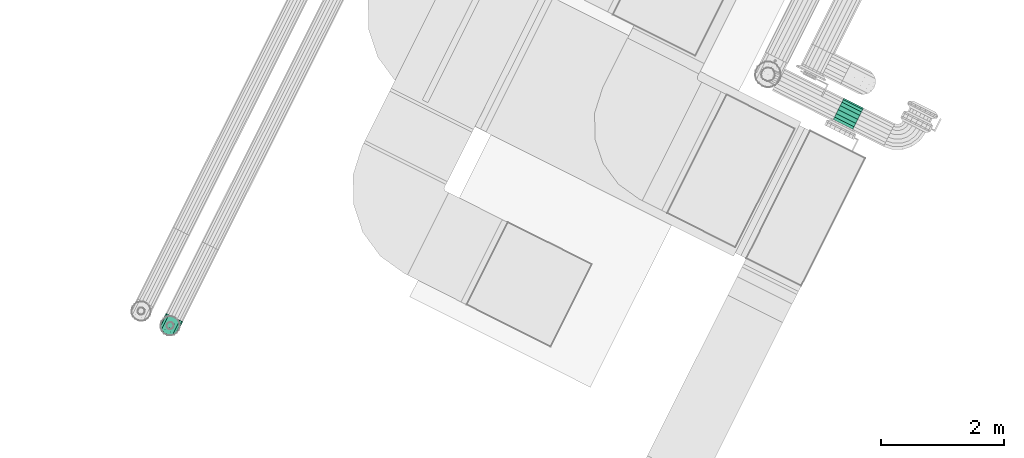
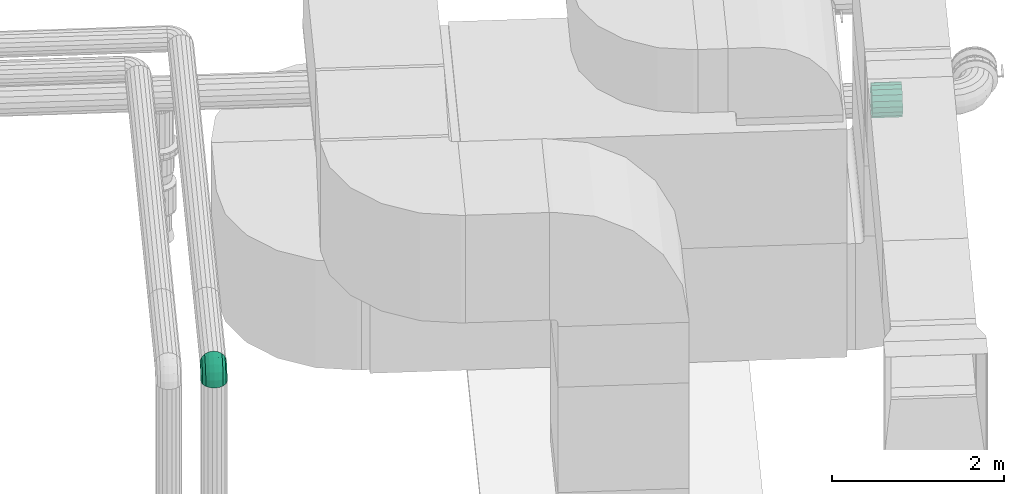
# One storey, part 51 of 152: 1 flow fitting, 1 flow segment.
"""IFC2X3 building model written with IfcOpenShell, lengths in metres."""

from ifc_helpers import new_model, si_unit, derived_unit, direction, frame, origin, place, context, subcontext, project, spatial, face_set, surface_model, source, transform, mapped, material, type_object, type_shapes, element, save


model = new_model("IFC2X3")

# Units and contexts
model_context = context("Model", 3, precision=5.2338327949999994e-05, world=origin(), true_north=direction((0.0, 1.0)))
body_context = subcontext(model_context, "Body", "Model", "MODEL_VIEW")
ifc_project = project(units=[si_unit("LENGTHUNIT", "METRE"), si_unit("AREAUNIT", "SQUARE_METRE"), si_unit("VOLUMEUNIT", "CUBIC_METRE"), si_unit("MASSUNIT", "GRAM", prefix="KILO"), si_unit("PLANEANGLEUNIT", "RADIAN"), derived_unit("THERMALTRANSMITTANCEUNIT", [(si_unit("MASSUNIT", "GRAM", prefix="KILO"), 1), (si_unit("THERMODYNAMICTEMPERATUREUNIT", "KELVIN"), -1), (si_unit("TIMEUNIT", "SECOND"), -3)])], contexts=[model_context])

# Site, building, storey
site_placement = place(None, frame((0.0, 0.0, 0.0), z_axis=(0.0, 0.0, 1.0), x_axis=(0.8939966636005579, -0.4480736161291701, 0.0)))
site = spatial("IfcSite", under=ifc_project, at=site_placement, Name="Default", CompositionType="ELEMENT")
building_placement = place(site_placement, origin())
building = spatial("IfcBuilding", under=site, at=building_placement, CompositionType="ELEMENT")
storey_placement = place(building_placement, frame((0.0, 0.0, 2.7499999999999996)))
storey = spatial("IfcBuildingStorey", under=building, at=storey_placement, Name="1. Obergeschoss", CompositionType="ELEMENT", Elevation=2.7499999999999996)

# Flow segment
ifc_material_1 = material(Name="IfcSurfaceStyle #1741")
distribution_element_type_1 = type_object("IfcDistributionElementType", Name="Rohrbogen 9738:Rohrbogen 9738", material=ifc_material_1)
shared_shape_1 = source(origin(), body_context, "Body", "SurfaceModel", [
    surface_model("IfcFaceBasedSurfaceModel", [(25.624301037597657, 0.6996688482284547, 6.717313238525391), (25.624301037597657, 0.7642997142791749, 6.727549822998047), (25.604753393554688, 0.7007338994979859, 6.7140355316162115), (25.604753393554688, 0.7642997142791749, 6.724103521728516), (25.624301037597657, 0.6413644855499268, 6.687605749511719), (25.604753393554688, 0.6433903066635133, 6.684817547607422), (25.624301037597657, 0.5950938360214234, 6.641335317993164), (25.604753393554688, 0.5978821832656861, 6.6393092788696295), (25.624301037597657, 0.5653862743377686, 6.5830307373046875), (25.604753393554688, 0.5686641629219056, 6.581965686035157), (25.624301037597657, 0.5551497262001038, 6.518399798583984), (25.604753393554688, 0.5585963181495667, 6.518399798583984), (25.58756374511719, 0.7038005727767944, 6.70459715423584), (25.58756374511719, 0.7642997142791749, 6.714179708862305), (25.58756374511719, 0.6492234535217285, 6.676788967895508), (25.58756374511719, 0.6059108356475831, 6.633476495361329), (25.58756374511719, 0.5781024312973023, 6.578899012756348), (25.58756374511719, 0.5685203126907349, 6.518399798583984), (25.574806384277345, 0.7084989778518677, 6.690136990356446), (25.574806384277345, 0.7642997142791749, 6.698974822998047), (25.574806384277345, 0.6581604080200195, 6.66448797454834), (25.574806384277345, 0.6182114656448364, 6.624539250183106), (25.574806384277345, 0.5925627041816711, 6.574200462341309), (25.574806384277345, 0.5837247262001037, 6.518399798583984), (25.568018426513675, 0.7642997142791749, 6.680324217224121), (25.568018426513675, 0.7142625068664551, 6.672399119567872), (25.568018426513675, 0.669123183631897, 6.649399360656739), (25.568018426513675, 0.6333004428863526, 6.613576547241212), (25.568018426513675, 0.6103009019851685, 6.568437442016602), (25.568018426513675, 0.6023757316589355, 6.518399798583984), (25.568018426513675, 0.7203958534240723, 6.653522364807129), (25.568018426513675, 0.7642997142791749, 6.660476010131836), (25.568018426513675, 0.6807895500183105, 6.633341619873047), (25.568018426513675, 0.6493578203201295, 6.601910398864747), (25.568018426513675, 0.629177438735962, 6.562304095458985), (25.568018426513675, 0.622223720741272, 6.518399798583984), (25.574806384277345, 0.7261593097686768, 6.635783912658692), (25.574806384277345, 0.7642997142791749, 6.641824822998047), (25.574806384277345, 0.6917523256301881, 6.618253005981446), (25.574806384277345, 0.6644467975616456, 6.590947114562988), (25.574806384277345, 0.6469156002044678, 6.556540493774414), (25.574806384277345, 0.6408747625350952, 6.518399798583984), (25.58756374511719, 0.7308577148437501, 6.6213237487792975), (25.58756374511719, 0.7642997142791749, 6.626620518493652), (25.58756374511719, 0.7006892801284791, 6.605952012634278), (25.58756374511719, 0.6767475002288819, 6.5820104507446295), (25.58756374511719, 0.6613758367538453, 6.551841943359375), (25.58756374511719, 0.6560792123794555, 6.518399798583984), (25.604753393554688, 0.7339244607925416, 6.611885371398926), (25.604753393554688, 0.7642997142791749, 6.616696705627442), (25.604753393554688, 0.7065224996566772, 6.5979234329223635), (25.604753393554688, 0.6847761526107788, 6.576177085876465), (25.604753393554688, 0.6708141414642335, 6.548775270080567), (25.604753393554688, 0.6660031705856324, 6.518399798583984), (25.624301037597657, 0.7642997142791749, 6.613249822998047), (25.624301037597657, 0.7349895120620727, 6.608607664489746), (25.624301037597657, 0.7085483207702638, 6.595135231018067), (25.624301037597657, 0.6875644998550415, 6.574151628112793), (25.624301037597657, 0.6740920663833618, 6.547710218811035), (25.624301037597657, 0.6694497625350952, 6.518399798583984), (25.643846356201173, 0.7339244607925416, 6.611885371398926), (25.643846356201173, 0.7642997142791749, 6.616696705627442), (25.643846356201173, 0.7065224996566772, 6.5979234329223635), (25.643846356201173, 0.6847761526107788, 6.576177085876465), (25.643846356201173, 0.6708141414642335, 6.548775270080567), (25.643846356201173, 0.6660031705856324, 6.518399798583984), (25.661036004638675, 0.7642997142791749, 6.626620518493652), (25.661036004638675, 0.7308577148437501, 6.6213237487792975), (25.661036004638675, 0.7006892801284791, 6.605952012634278), (25.661036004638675, 0.6767475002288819, 6.5820104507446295), (25.661036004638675, 0.6613758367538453, 6.551841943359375), (25.661036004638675, 0.6560792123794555, 6.518399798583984), (25.673793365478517, 0.7642997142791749, 6.641824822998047), (25.673793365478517, 0.7261593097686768, 6.635783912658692), (25.673793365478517, 0.6917523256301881, 6.618253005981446), (25.673793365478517, 0.6644467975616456, 6.590947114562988), (25.673793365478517, 0.6469156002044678, 6.556540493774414), (25.673793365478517, 0.6408747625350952, 6.518399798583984), (25.68058132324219, 0.7642997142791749, 6.660476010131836), (25.68058132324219, 0.7203958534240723, 6.653522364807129), (25.68058132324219, 0.6807895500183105, 6.633341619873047), (25.68058132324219, 0.6493578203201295, 6.601910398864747), (25.68058132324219, 0.629177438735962, 6.562304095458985), (25.68058132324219, 0.622223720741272, 6.518399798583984), (25.68058132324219, 0.7642997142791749, 6.680324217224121), (25.68058132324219, 0.7142625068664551, 6.672399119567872), (25.68058132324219, 0.669123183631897, 6.649399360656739), (25.68058132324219, 0.6333004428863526, 6.613576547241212), (25.68058132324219, 0.6103009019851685, 6.568437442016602), (25.68058132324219, 0.6023757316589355, 6.518399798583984), (25.673793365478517, 0.7084989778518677, 6.690136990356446), (25.673793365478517, 0.7642997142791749, 6.698974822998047), (25.673793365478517, 0.6581604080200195, 6.66448797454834), (25.673793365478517, 0.6182114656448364, 6.624539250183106), (25.673793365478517, 0.5925627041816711, 6.574200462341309), (25.673793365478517, 0.5837247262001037, 6.518399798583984), (25.661036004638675, 0.7642997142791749, 6.714179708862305), (25.661036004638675, 0.7038005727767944, 6.70459715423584), (25.661036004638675, 0.6492234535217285, 6.676788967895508), (25.661036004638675, 0.6059108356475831, 6.633476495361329), (25.661036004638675, 0.5781024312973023, 6.578899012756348), (25.661036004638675, 0.5685203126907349, 6.518399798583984), (25.643846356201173, 0.7007338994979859, 6.7140355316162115), (25.643846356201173, 0.7642997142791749, 6.724103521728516), (25.643846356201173, 0.6433903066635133, 6.684817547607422), (25.643846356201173, 0.5978821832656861, 6.6393092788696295), (25.624301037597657, 0.6687671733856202, 6.812419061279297), (25.624301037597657, 0.7642997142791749, 6.8275501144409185), (25.570550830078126, 0.7642997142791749, 6.818072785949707), (25.570550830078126, 0.6716957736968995, 6.803405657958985), (25.624301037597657, 0.5825859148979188, 6.7685077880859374), (25.570550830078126, 0.5881565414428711, 6.760840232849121), (25.624301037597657, 0.5141921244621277, 6.700113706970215), (25.570550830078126, 0.521859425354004, 6.694543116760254), (25.624301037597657, 0.4702806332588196, 6.61393233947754), (25.570550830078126, 0.47929407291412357, 6.611004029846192), (25.624301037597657, 0.4551497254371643, 6.518399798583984), (25.570550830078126, 0.4646270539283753, 6.518399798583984), (25.52328627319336, 0.6801284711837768, 6.777452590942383), (25.52328627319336, 0.7642997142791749, 6.790783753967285), (25.52328627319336, 0.604196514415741, 6.738763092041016), (25.52328627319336, 0.5439365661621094, 6.6785033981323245), (25.52328627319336, 0.505247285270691, 6.602571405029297), (25.52328627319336, 0.4919158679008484, 6.518399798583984), (25.488204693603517, 0.693048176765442, 6.737689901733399), (25.488204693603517, 0.7642997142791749, 6.748975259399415), (25.488204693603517, 0.6287711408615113, 6.70493899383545), (25.488204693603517, 0.5777606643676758, 6.653928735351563), (25.488204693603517, 0.5450099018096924, 6.589651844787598), (25.488204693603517, 0.5337247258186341, 6.518399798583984), (25.469538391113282, 0.7642997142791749, 6.697688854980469), (25.469538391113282, 0.7088964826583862, 6.688913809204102), (25.469538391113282, 0.6589163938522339, 6.66344792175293), (25.469538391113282, 0.619252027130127, 6.623783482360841), (25.469538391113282, 0.5937859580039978, 6.573803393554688), (25.469538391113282, 0.5850109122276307, 6.518399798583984), (25.469538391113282, 0.7257618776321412, 6.637007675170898), (25.469538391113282, 0.7642997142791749, 6.643111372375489), (25.469538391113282, 0.6909963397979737, 6.6192936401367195), (25.469538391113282, 0.663406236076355, 6.591703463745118), (25.469538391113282, 0.6456923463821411, 6.556938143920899), (25.469538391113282, 0.6395885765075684, 6.518399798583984), (25.488204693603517, 0.7642997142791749, 6.591824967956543), (25.488204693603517, 0.7416101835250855, 6.588231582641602), (25.488204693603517, 0.7211415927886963, 6.577801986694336), (25.488204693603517, 0.7048976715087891, 6.561558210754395), (25.488204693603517, 0.6944684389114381, 6.541089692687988), (25.488204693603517, 0.690874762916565, 6.518399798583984), (25.52328627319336, 0.7545298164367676, 6.548468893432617), (25.52328627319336, 0.7642997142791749, 6.550015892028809), (25.52328627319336, 0.7457162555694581, 6.54397788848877), (25.52328627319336, 0.7387217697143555, 6.536983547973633), (25.52328627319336, 0.7342310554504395, 6.52817013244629), (25.52328627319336, 0.7326836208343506, 6.518399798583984), (25.570550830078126, 0.762962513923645, 6.5225152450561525), (25.570550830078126, 0.7642997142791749, 6.52272744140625), (25.570550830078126, 0.7617561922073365, 6.5219007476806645), (25.570550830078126, 0.760798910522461, 6.52094324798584), (25.570550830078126, 0.760184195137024, 6.519736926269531), (25.570550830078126, 0.7599724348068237, 6.518399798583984), (25.595093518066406, 0.7642997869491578, 6.518399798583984), (25.59442611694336, 0.7635565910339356, 6.518399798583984), (25.653506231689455, 0.7642997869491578, 6.518399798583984), (25.6541736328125, 0.7635565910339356, 6.518399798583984), (25.678048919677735, 0.762962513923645, 6.5225152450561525), (25.678048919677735, 0.7642997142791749, 6.52272744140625), (25.678048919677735, 0.7617561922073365, 6.5219007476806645), (25.678048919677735, 0.760798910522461, 6.52094324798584), (25.678048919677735, 0.760184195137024, 6.519736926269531), (25.678048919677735, 0.7599724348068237, 6.518399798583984), (25.7253134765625, 0.7642997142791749, 6.550015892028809), (25.7253134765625, 0.7545298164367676, 6.548468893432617), (25.7253134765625, 0.7457162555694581, 6.54397788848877), (25.7253134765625, 0.7387217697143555, 6.536983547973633), (25.7253134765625, 0.7342310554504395, 6.52817013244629), (25.7253134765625, 0.7326836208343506, 6.518399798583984), (25.760395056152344, 0.7642997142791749, 6.591824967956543), (25.760395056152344, 0.7416101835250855, 6.588231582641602), (25.760395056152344, 0.7211415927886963, 6.577801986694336), (25.760395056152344, 0.7048976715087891, 6.561558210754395), (25.760395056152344, 0.6944684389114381, 6.541089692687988), (25.760395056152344, 0.690874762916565, 6.518399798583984), (25.779063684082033, 0.7642997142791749, 6.643111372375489), (25.779063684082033, 0.7257618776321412, 6.637007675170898), (25.779063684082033, 0.6909963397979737, 6.6192936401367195), (25.779063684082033, 0.663406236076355, 6.591703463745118), (25.779063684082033, 0.6456923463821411, 6.556938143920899), (25.779063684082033, 0.6395885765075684, 6.518399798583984), (25.779063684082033, 0.7642997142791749, 6.697688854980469), (25.779063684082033, 0.7088964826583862, 6.688913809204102), (25.779063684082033, 0.6589163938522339, 6.66344792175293), (25.779063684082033, 0.619252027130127, 6.623783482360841), (25.779063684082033, 0.5937859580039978, 6.573803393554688), (25.779063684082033, 0.5850109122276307, 6.518399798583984), (25.760395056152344, 0.693048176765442, 6.737689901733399), (25.760395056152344, 0.7642997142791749, 6.748975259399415), (25.760395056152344, 0.6287711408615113, 6.70493899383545), (25.760395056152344, 0.5777606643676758, 6.653928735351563), (25.760395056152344, 0.5450099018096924, 6.589651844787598), (25.760395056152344, 0.5337247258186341, 6.518399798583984), (25.7253134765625, 0.7642997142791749, 6.790783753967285), (25.7253134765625, 0.6801284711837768, 6.777452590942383), (25.7253134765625, 0.604196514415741, 6.738763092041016), (25.7253134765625, 0.5439365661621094, 6.6785033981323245), (25.7253134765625, 0.505247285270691, 6.602571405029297), (25.7253134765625, 0.4919158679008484, 6.518399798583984), (25.678048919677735, 0.7642997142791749, 6.818072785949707), (25.678048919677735, 0.6716957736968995, 6.803405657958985), (25.678048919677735, 0.5881565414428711, 6.760840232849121), (25.678048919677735, 0.521859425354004, 6.694543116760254), (25.678048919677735, 0.47929407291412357, 6.611004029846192), (25.678048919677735, 0.4646270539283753, 6.518399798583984), (25.643846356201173, 0.5686641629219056, 6.581965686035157), (25.643846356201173, 0.5585963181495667, 6.518399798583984)], [face_set([[[0, 1, 2]], [[3, 2, 1]], [[4, 0, 5]], [[2, 5, 0]], [[6, 4, 7]], [[5, 7, 4]], [[8, 6, 7]], [[7, 9, 8]], [[10, 8, 9]], [[9, 11, 10]], [[2, 3, 12]], [[13, 12, 3]], [[5, 2, 12]], [[12, 14, 5]], [[7, 5, 15]], [[14, 15, 5]], [[9, 7, 16]], [[15, 16, 7]], [[11, 9, 17]], [[16, 17, 9]], [[12, 13, 18]], [[19, 18, 13]], [[14, 12, 20]], [[18, 20, 12]], [[15, 14, 21]], [[20, 21, 14]], [[16, 15, 21]], [[21, 22, 16]], [[17, 16, 22]], [[22, 23, 17]], [[18, 19, 24]], [[24, 25, 18]], [[20, 18, 25]], [[25, 26, 20]], [[21, 20, 26]], [[26, 27, 21]], [[22, 21, 27]], [[27, 28, 22]], [[23, 22, 28]], [[28, 29, 23]], [[25, 24, 30]], [[31, 30, 24]], [[26, 25, 32]], [[30, 32, 25]], [[27, 26, 33]], [[32, 33, 26]], [[28, 27, 33]], [[33, 34, 28]], [[29, 28, 35]], [[34, 35, 28]], [[30, 31, 36]], [[37, 36, 31]], [[32, 30, 38]], [[36, 38, 30]], [[33, 32, 38]], [[38, 39, 33]], [[34, 33, 40]], [[39, 40, 33]], [[35, 34, 41]], [[40, 41, 34]], [[36, 37, 42]], [[43, 42, 37]], [[38, 36, 44]], [[42, 44, 36]], [[39, 38, 45]], [[44, 45, 38]], [[40, 39, 46]], [[45, 46, 39]], [[41, 40, 47]], [[46, 47, 40]], [[42, 43, 48]], [[49, 48, 43]], [[44, 42, 50]], [[48, 50, 42]], [[45, 44, 50]], [[50, 51, 45]], [[46, 45, 51]], [[51, 52, 46]], [[47, 46, 52]], [[52, 53, 47]], [[48, 49, 54]], [[54, 55, 48]], [[50, 48, 56]], [[55, 56, 48]], [[51, 50, 57]], [[56, 57, 50]], [[52, 51, 57]], [[57, 58, 52]], [[53, 52, 58]], [[58, 59, 53]], [[55, 54, 60]], [[61, 60, 54]], [[56, 55, 62]], [[60, 62, 55]], [[57, 56, 62]], [[62, 63, 57]], [[58, 57, 64]], [[63, 64, 57]], [[59, 58, 65]], [[64, 65, 58]], [[60, 61, 66]], [[66, 67, 60]], [[62, 60, 68]], [[67, 68, 60]], [[63, 62, 69]], [[68, 69, 62]], [[64, 63, 70]], [[69, 70, 63]], [[65, 64, 71]], [[70, 71, 64]], [[67, 66, 72]], [[72, 73, 67]], [[68, 67, 74]], [[73, 74, 67]], [[69, 68, 75]], [[74, 75, 68]], [[70, 69, 75]], [[75, 76, 70]], [[71, 70, 76]], [[76, 77, 71]], [[73, 72, 78]], [[78, 79, 73]], [[74, 73, 79]], [[79, 80, 74]], [[75, 74, 81]], [[80, 81, 74]], [[76, 75, 81]], [[81, 82, 76]], [[77, 76, 83]], [[82, 83, 76]], [[79, 78, 84]], [[84, 85, 79]], [[80, 79, 85]], [[85, 86, 80]], [[81, 80, 87]], [[86, 87, 80]], [[82, 81, 88]], [[87, 88, 81]], [[83, 82, 88]], [[88, 89, 83]], [[85, 84, 90]], [[91, 90, 84]], [[86, 85, 92]], [[90, 92, 85]], [[87, 86, 93]], [[92, 93, 86]], [[88, 87, 94]], [[93, 94, 87]], [[89, 88, 95]], [[94, 95, 88]], [[90, 91, 96]], [[96, 97, 90]], [[92, 90, 97]], [[97, 98, 92]], [[93, 92, 98]], [[98, 99, 93]], [[94, 93, 100]], [[99, 100, 93]], [[95, 94, 101]], [[100, 101, 94]], [[97, 96, 102]], [[103, 102, 96]], [[98, 97, 102]], [[102, 104, 98]], [[99, 98, 104]], [[104, 105, 99]], [[102, 103, 1]], [[1, 0, 102]], [[104, 102, 4]], [[0, 4, 102]], [[105, 104, 6]], [[4, 6, 104]], [[106, 107, 108]], [[108, 109, 106]], [[110, 106, 111]], [[109, 111, 106]], [[112, 110, 111]], [[111, 113, 112]], [[114, 112, 113]], [[113, 115, 114]], [[116, 114, 115]], [[115, 117, 116]], [[109, 108, 118]], [[119, 118, 108]], [[111, 109, 118]], [[118, 120, 111]], [[113, 111, 121]], [[120, 121, 111]], [[115, 113, 121]], [[121, 122, 115]], [[117, 115, 122]], [[122, 123, 117]], [[118, 119, 124]], [[125, 124, 119]], [[120, 118, 124]], [[124, 126, 120]], [[121, 120, 126]], [[126, 127, 121]], [[122, 121, 127]], [[127, 128, 122]], [[123, 122, 128]], [[128, 129, 123]], [[124, 125, 130]], [[130, 131, 124]], [[126, 124, 132]], [[131, 132, 124]], [[127, 126, 132]], [[132, 133, 127]], [[128, 127, 134]], [[133, 134, 127]], [[129, 128, 135]], [[134, 135, 128]], [[131, 130, 136]], [[137, 136, 130]], [[132, 131, 136]], [[136, 138, 132]], [[133, 132, 138]], [[138, 139, 133]], [[134, 133, 139]], [[139, 140, 134]], [[135, 134, 140]], [[140, 141, 135]], [[136, 137, 142]], [[142, 143, 136]], [[138, 136, 143]], [[143, 144, 138]], [[139, 138, 144]], [[144, 145, 139]], [[140, 139, 146]], [[145, 146, 139]], [[141, 140, 146]], [[146, 147, 141]], [[143, 142, 148]], [[149, 148, 142]], [[144, 143, 150]], [[148, 150, 143]], [[145, 144, 150]], [[150, 151, 145]], [[146, 145, 152]], [[151, 152, 145]], [[147, 146, 152]], [[152, 153, 147]], [[148, 149, 154]], [[155, 154, 149]], [[150, 148, 156]], [[154, 156, 148]], [[151, 150, 156]], [[156, 157, 151]], [[152, 151, 158]], [[157, 158, 151]], [[153, 152, 158]], [[158, 159, 153]], [[160, 154, 161]], [[160, 161, 155]], [[154, 155, 161]], [[156, 154, 160]], [[157, 156, 160]], [[158, 157, 160]], [[159, 158, 160]], [[162, 163, 164]], [[165, 164, 163]], [[163, 162, 165]], [[164, 166, 162]], [[162, 166, 167]], [[167, 168, 162]], [[168, 169, 162]], [[164, 165, 170]], [[170, 171, 164]], [[166, 164, 171]], [[171, 172, 166]], [[167, 166, 173]], [[172, 173, 166]], [[168, 167, 174]], [[173, 174, 167]], [[169, 168, 174]], [[174, 175, 169]], [[171, 170, 176]], [[176, 177, 171]], [[172, 171, 177]], [[177, 178, 172]], [[173, 172, 179]], [[178, 179, 172]], [[174, 173, 180]], [[179, 180, 173]], [[175, 174, 180]], [[180, 181, 175]], [[177, 176, 182]], [[182, 183, 177]], [[178, 177, 184]], [[183, 184, 177]], [[179, 178, 185]], [[184, 185, 178]], [[180, 179, 185]], [[185, 186, 180]], [[181, 180, 187]], [[186, 187, 180]], [[183, 182, 188]], [[188, 189, 183]], [[184, 183, 189]], [[189, 190, 184]], [[185, 184, 191]], [[190, 191, 184]], [[186, 185, 192]], [[191, 192, 185]], [[187, 186, 193]], [[192, 193, 186]], [[189, 188, 194]], [[195, 194, 188]], [[190, 189, 194]], [[194, 196, 190]], [[191, 190, 197]], [[196, 197, 190]], [[192, 191, 197]], [[197, 198, 192]], [[193, 192, 198]], [[198, 199, 193]], [[194, 195, 200]], [[200, 201, 194]], [[196, 194, 202]], [[201, 202, 194]], [[197, 196, 203]], [[202, 203, 196]], [[198, 197, 204]], [[203, 204, 197]], [[199, 198, 205]], [[204, 205, 198]], [[201, 200, 206]], [[206, 207, 201]], [[202, 201, 208]], [[207, 208, 201]], [[203, 202, 208]], [[208, 209, 203]], [[204, 203, 210]], [[209, 210, 203]], [[205, 204, 211]], [[210, 211, 204]], [[207, 206, 107]], [[107, 106, 207]], [[208, 207, 110]], [[106, 110, 207]], [[209, 208, 110]], [[110, 112, 209]], [[210, 209, 114]], [[112, 114, 209]], [[211, 210, 116]], [[114, 116, 210]], [[100, 99, 105]], [[105, 212, 100]], [[101, 100, 213]], [[212, 213, 100]], [[212, 105, 6]], [[6, 8, 212]], [[213, 212, 8]], [[8, 10, 213]]])]),
])
type_shapes(distribution_element_type_1, [shared_shape_1])
flow_segment_placement = place(storey_placement, frame((0.0, 0.0, -2.7499999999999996)))
element("IfcFlowSegment", 1, at=flow_segment_placement, inside=storey, type_object=distribution_element_type_1, material=ifc_material_1, Name="Rohrbogen", ObjectType="Rohrbogen", context=body_context, shape_type="MappedRepresentation", body=[
    mapped(shared_shape_1, transform((0.0, 0.0, 0.0), scale=1.0)),
])

# Flow fitting
ifc_material_2 = material(Name="IfcSurfaceStyle #9317")
distribution_element_type_2 = type_object("IfcDistributionElementType", Name="Abzweigstück 612696:Abzweigstück 612696", material=ifc_material_2)
shared_shape_2 = source(origin(), body_context, "Body", "SurfaceModel", [
    surface_model("IfcFaceBasedSurfaceModel", [(33.77227278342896, 8.633986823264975, 4.449999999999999), (33.77227278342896, 8.671455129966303, 4.456606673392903), (34.12827278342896, 8.671455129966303, 4.456606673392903), (34.12827278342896, 8.633986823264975, 4.449999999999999), (33.77227278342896, 8.704404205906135, 4.475629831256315), (34.12827278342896, 8.704404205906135, 4.475629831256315), (33.77227278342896, 8.728859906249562, 4.5047749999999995), (34.12827278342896, 8.728859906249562, 4.5047749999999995), (33.77227278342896, 8.741872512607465, 4.540526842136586), (34.12827278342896, 8.741872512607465, 4.540526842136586), (33.77227278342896, 8.741872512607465, 4.57857315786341), (34.12827278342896, 8.741872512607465, 4.57857315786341), (33.77227278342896, 8.728859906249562, 4.614325), (34.12827278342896, 8.728859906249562, 4.614325), (33.77227278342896, 8.70440420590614, 4.643470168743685), (34.12827278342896, 8.70440420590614, 4.643470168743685), (33.77227278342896, 8.67145512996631, 4.662493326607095), (34.12827278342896, 8.67145512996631, 4.662493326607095), (33.77227278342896, 8.63398682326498, 4.669100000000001), (34.12827278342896, 8.63398682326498, 4.669100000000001), (33.77227278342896, 8.596518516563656, 4.662493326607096), (34.12827278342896, 8.596518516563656, 4.662493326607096), (33.77227278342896, 8.563569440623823, 4.643470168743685), (34.12827278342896, 8.563569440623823, 4.643470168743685), (33.77227278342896, 8.539113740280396, 4.614324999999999), (34.12827278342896, 8.539113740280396, 4.614324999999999), (33.77227278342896, 8.526101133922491, 4.578573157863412), (34.12827278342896, 8.526101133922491, 4.578573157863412), (33.77227278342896, 8.526101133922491, 4.540526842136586), (34.12827278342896, 8.526101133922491, 4.540526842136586), (33.77227278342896, 8.539113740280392, 4.504775), (34.12827278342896, 8.539113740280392, 4.504775), (33.77227278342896, 8.563569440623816, 4.475629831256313), (34.12827278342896, 8.563569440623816, 4.475629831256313), (33.77227278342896, 8.59651851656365, 4.456606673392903), (34.12827278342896, 8.59651851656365, 4.456606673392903), (33.77227278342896, 8.633986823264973, 4.349999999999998), (33.77227278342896, 8.705657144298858, 4.362637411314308), (34.12827278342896, 8.705657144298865, 4.362637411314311), (34.12827278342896, 8.633986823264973, 4.35), (33.77227278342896, 8.768682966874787, 4.399025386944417), (34.12827278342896, 8.768682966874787, 4.399025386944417), (33.77227278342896, 8.815462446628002, 4.454775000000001), (34.12827278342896, 8.815462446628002, 4.454775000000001), (33.77227278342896, 8.840353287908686, 4.523162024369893), (34.12827278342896, 8.840353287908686, 4.523162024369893), (33.77227278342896, 8.840353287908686, 4.595937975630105), (34.12827278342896, 8.840353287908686, 4.595937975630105), (33.77227278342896, 8.815462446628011, 4.664325), (34.12827278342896, 8.815462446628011, 4.664325), (33.77227278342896, 8.768682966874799, 4.720074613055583), (34.12827278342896, 8.768682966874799, 4.720074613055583), (33.77227278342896, 8.705657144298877, 4.756462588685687), (34.12827278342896, 8.705657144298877, 4.756462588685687), (33.77227278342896, 8.633986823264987, 4.769099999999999), (34.12827278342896, 8.633986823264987, 4.769099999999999), (33.77227278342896, 8.562316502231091, 4.756462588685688), (34.12827278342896, 8.562316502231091, 4.756462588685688), (33.77227278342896, 8.49929067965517, 4.720074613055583), (34.12827278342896, 8.49929067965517, 4.720074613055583), (33.77227278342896, 8.452511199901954, 4.664324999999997), (34.12827278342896, 8.452511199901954, 4.664324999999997), (33.77227278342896, 8.427620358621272, 4.595937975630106), (34.12827278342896, 8.427620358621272, 4.595937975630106), (33.77227278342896, 8.427620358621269, 4.523162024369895), (34.12827278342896, 8.427620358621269, 4.523162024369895), (33.77227278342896, 8.452511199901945, 4.454775), (34.12827278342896, 8.452511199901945, 4.454775), (33.77227278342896, 8.49929067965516, 4.399025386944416), (34.12827278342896, 8.49929067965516, 4.399025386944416), (33.77227278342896, 8.562316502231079, 4.362637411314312), (34.12827278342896, 8.562316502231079, 4.362637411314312), (34.05982278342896, 8.52443682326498, 4.559550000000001), (34.053216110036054, 8.531043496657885, 4.597018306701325), (34.053216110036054, 8.45598682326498, 4.597018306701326), (34.059822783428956, 8.45598682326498, 4.559550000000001), (34.034192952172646, 8.550066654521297, 4.629967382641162), (34.034192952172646, 8.455986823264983, 4.629967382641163), (34.00504778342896, 8.579211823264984, 4.654423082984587), (34.00504778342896, 8.455986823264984, 4.654423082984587), (33.96929594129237, 8.614963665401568, 4.667435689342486), (33.96929594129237, 8.455986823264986, 4.667435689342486), (33.93124962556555, 8.614963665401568, 4.667435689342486), (33.93124962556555, 8.455986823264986, 4.667435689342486), (33.89549778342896, 8.579211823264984, 4.654423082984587), (33.89549778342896, 8.455986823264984, 4.654423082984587), (33.866352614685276, 8.550066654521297, 4.62996738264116), (33.866352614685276, 8.455986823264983, 4.62996738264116), (33.84732945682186, 8.531043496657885, 4.597018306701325), (33.84732945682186, 8.45598682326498, 4.597018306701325), (33.84072278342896, 8.52443682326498, 4.559550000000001), (33.84072278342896, 8.45598682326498, 4.559550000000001), (33.84732945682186, 8.531043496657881, 4.522081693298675), (33.84732945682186, 8.455986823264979, 4.522081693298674), (33.866352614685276, 8.550066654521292, 4.489132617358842), (33.866352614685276, 8.455986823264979, 4.489132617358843), (33.89549778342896, 8.579211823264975, 4.464676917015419), (33.89549778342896, 8.455986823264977, 4.464676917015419), (33.93124962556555, 8.614963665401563, 4.451664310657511), (33.93124962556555, 8.455986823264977, 4.451664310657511), (33.96929594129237, 8.614963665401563, 4.451664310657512), (33.96929594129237, 8.455986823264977, 4.451664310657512), (34.00504778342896, 8.579211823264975, 4.464676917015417), (34.00504778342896, 8.455986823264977, 4.464676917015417), (34.034192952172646, 8.550066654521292, 4.48913261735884), (34.034192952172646, 8.455986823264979, 4.48913261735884), (34.053216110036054, 8.531043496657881, 4.522081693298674), (34.053216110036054, 8.455986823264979, 4.522081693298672)], [face_set([[[0, 1, 2, 3]], [[1, 4, 5, 2]], [[4, 6, 7, 5]], [[6, 8, 9, 7]], [[8, 10, 11, 9]], [[10, 12, 13, 11]], [[12, 14, 15, 13]], [[14, 16, 17, 15]], [[16, 18, 19, 17]], [[18, 20, 21, 19]], [[20, 22, 23, 21]], [[22, 24, 25, 23]], [[24, 26, 27, 25]], [[26, 28, 29, 27]], [[28, 30, 31, 29]], [[30, 32, 33, 31]], [[32, 34, 35, 33]], [[34, 0, 3, 35]], [[36, 37, 38, 39]], [[37, 40, 41, 38]], [[40, 42, 43, 41]], [[42, 44, 45, 43]], [[44, 46, 47, 45]], [[46, 48, 49, 47]], [[48, 50, 51, 49]], [[50, 52, 53, 51]], [[52, 54, 55, 53]], [[54, 56, 57, 55]], [[56, 58, 59, 57]], [[58, 60, 61, 59]], [[60, 62, 63, 61]], [[62, 64, 65, 63]], [[64, 66, 67, 65]], [[66, 68, 69, 67]], [[68, 70, 71, 69]], [[70, 36, 39, 71]], [[72, 73, 74, 75]], [[73, 76, 77, 74]], [[76, 78, 79, 77]], [[78, 80, 81, 79]], [[80, 82, 83, 81]], [[82, 84, 85, 83]], [[84, 86, 87, 85]], [[86, 88, 89, 87]], [[88, 90, 91, 89]], [[90, 92, 93, 91]], [[92, 94, 95, 93]], [[94, 96, 97, 95]], [[96, 98, 99, 97]], [[98, 100, 101, 99]], [[100, 102, 103, 101]], [[102, 104, 105, 103]], [[104, 106, 107, 105]], [[106, 72, 75, 107]]])]),
])
type_shapes(distribution_element_type_2, [shared_shape_2])
flow_fitting_placement = place(storey_placement, frame((0.0, 0.0, -2.7499999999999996)))
element("IfcFlowFitting", 2, at=flow_fitting_placement, inside=storey, type_object=distribution_element_type_2, material=ifc_material_2, Name="Abzweigstück", ObjectType="Abzweigstück", context=body_context, shape_type="MappedRepresentation", body=[
    mapped(shared_shape_2, transform((0.0, 0.0, 0.0), scale=1.0)),
])

save(model, "model.ifc")
